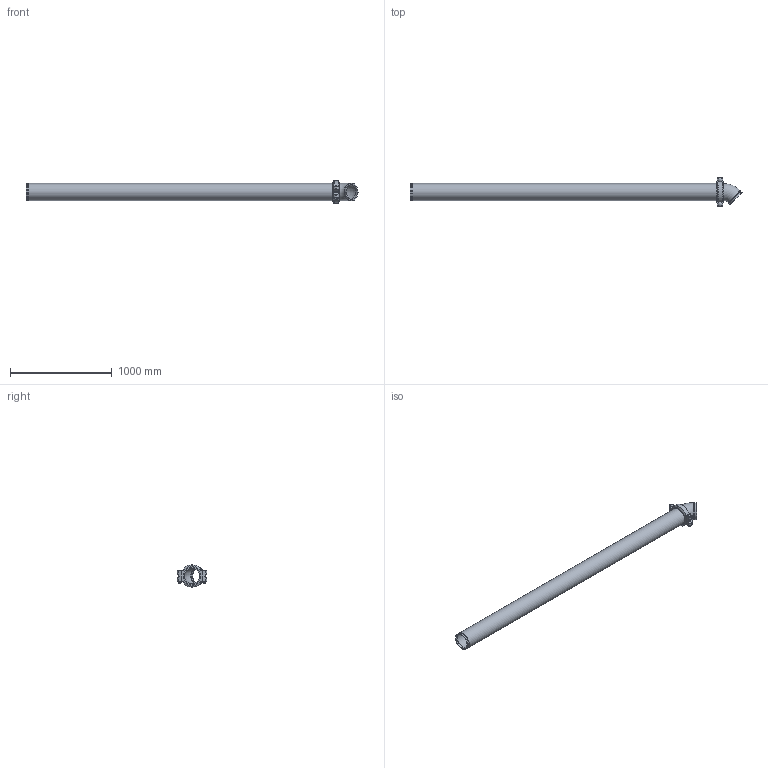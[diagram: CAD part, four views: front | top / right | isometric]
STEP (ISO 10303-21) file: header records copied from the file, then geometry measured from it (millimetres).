
FILE_DESCRIPTION(/* description */ ('VIC LONG RUN FITTING No R24 (OGS)','CAx-IF Rec.Pracs.---Representation and Presentation of Product Manufacturing Information (PMI)---4.0---2014-10-13'),/* implementation_level */ '2;1');
FILE_NAME(/* name */ 'C:\Users\Vjadhav\AppData\Roaming\Autodesk\ApplicationPlugins\Back Up\Victaulic_IPS_Long Run Fittings_No R24 (OGS)\Victaulic_IPS_Long Run Fittings_No R24 (OGS)_6 (150).stp',/* time_stamp */ '2020-10-13T19:13:54+06:00',/* author */ ('Vjadhav'),/* organization */ ('Victaulic'),/* preprocessor_version */ 'ST-DEVELOPER v17.2',/* originating_system */ 'Autodesk Inventor 2019',/* authorisation */ '');
FILE_SCHEMA (('AP242_MANAGED_MODEL_BASED_3D_ENGINEERING_MIM_LF { 1 0 10303 442 1 1 4 }'));
Length unit declared in the file: inch
Products named in the file (4): R24-06.0; 011-06.0; 177N-06.0; Pipe_R13-06.0
Assembly tree (3 placements, depth 2):
  R24-06.0
    011-06.0
    177N-06.0
    Pipe_R13-06.0
Bounding box: 3268.91 x 294.09 x 218.43 mm (x, y, z)
Volume: 12837960.5 mm3; surface area: 3441443.2 mm2
Topology: 3 solids, 3 shells, 117 faces, 309 edges, 210 vertices
Faces by surface type: plane 68, cylinder 37, torus 6, cone 4, sphere 2
Full cylindrical faces by diameter (mm): 19.05 x2, 37.694 x2, 154.051 x3, 155.575 x1, 163.957 x4, 168.275 x7
Entity records: 4060 total; most frequent: CARTESIAN_POINT 719, DIRECTION 677, ORIENTED_EDGE 626, EDGE_CURVE 313, AXIS2_PLACEMENT_3D 256, VERTEX_POINT 210, LINE 165, VECTOR 165
